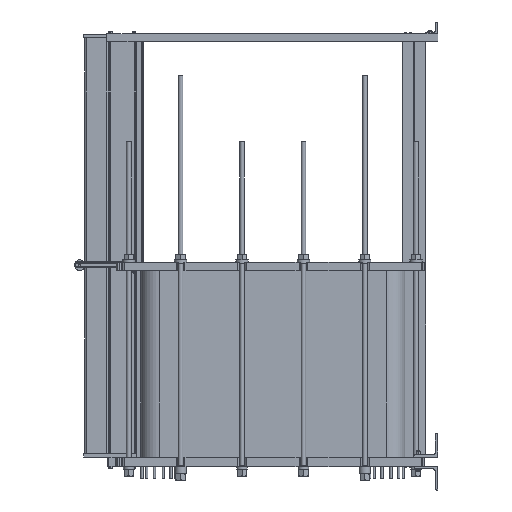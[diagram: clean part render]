
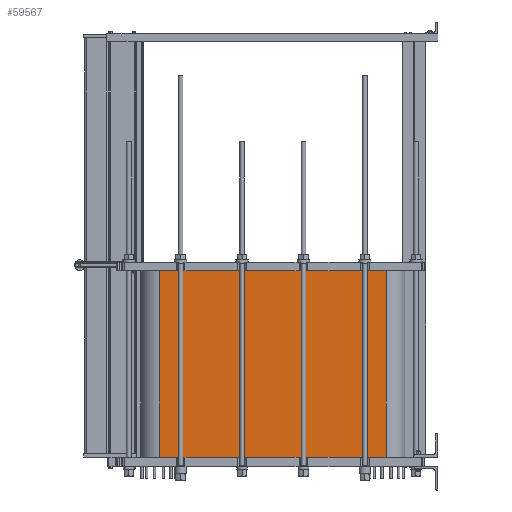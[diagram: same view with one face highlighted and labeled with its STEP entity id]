
A CAD part, left-side view. The second image highlights one B-rep face of the part: STEP entity #59567.
In plain terms, the highlighted planar face has unit normal (-1, 0, 0).
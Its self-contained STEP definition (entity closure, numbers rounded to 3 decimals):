
#44284=CARTESIAN_POINT('',(-375.0,-967.0,0.0));
#44285=VERTEX_POINT('',#44284);
#44293=CARTESIAN_POINT('',(-375.,967.0,0.0));
#44294=VERTEX_POINT('',#44293);
#44295=CARTESIAN_POINT('',(-375.0,-967.0,0.0));
#44296=DIRECTION('',(0.0,1.0,0.0));
#44297=VECTOR('',#44296,1934.0);
#44298=LINE('',#44295,#44297);
#44299=EDGE_CURVE('',#44285,#44294,#44298,.T.);
#59179=CARTESIAN_POINT('',(-375.,967.0,1587.5));
#59180=VERTEX_POINT('',#59179);
#59188=CARTESIAN_POINT('',(-375.0,-967.0,1587.5));
#59189=VERTEX_POINT('',#59188);
#59190=CARTESIAN_POINT('',(-375.,967.0,1587.5));
#59191=DIRECTION('',(0.0,-1.0,0.0));
#59192=VECTOR('',#59191,1934.0);
#59193=LINE('',#59190,#59192);
#59194=EDGE_CURVE('',#59180,#59189,#59193,.T.);
#59546=CARTESIAN_POINT('',(-375.0,-967.0,0.0));
#59547=DIRECTION('',(-1.0,0.0,0.0));
#59548=DIRECTION('',(0.0,0.0,1.0));
#59549=AXIS2_PLACEMENT_3D('',#59546,#59547,#59548);
#59550=PLANE('',#59549);
#59551=ORIENTED_EDGE('',*,*,#59194,.F.);
#59552=CARTESIAN_POINT('',(-375.,967.0,0.0));
#59553=DIRECTION('',(0.0,0.0,1.0));
#59554=VECTOR('',#59553,1587.5);
#59555=LINE('',#59552,#59554);
#59556=EDGE_CURVE('',#44294,#59180,#59555,.T.);
#59557=ORIENTED_EDGE('',*,*,#59556,.F.);
#59558=ORIENTED_EDGE('',*,*,#44299,.F.);
#59559=CARTESIAN_POINT('',(-375.0,-967.0,0.0));
#59560=DIRECTION('',(0.0,0.0,1.0));
#59561=VECTOR('',#59560,1587.5);
#59562=LINE('',#59559,#59561);
#59563=EDGE_CURVE('',#44285,#59189,#59562,.T.);
#59564=ORIENTED_EDGE('',*,*,#59563,.T.);
#59565=EDGE_LOOP('',(#59551,#59557,#59558,#59564));
#59566=FACE_OUTER_BOUND('',#59565,.T.);
#59567=ADVANCED_FACE('',(#59566),#59550,.T.);
